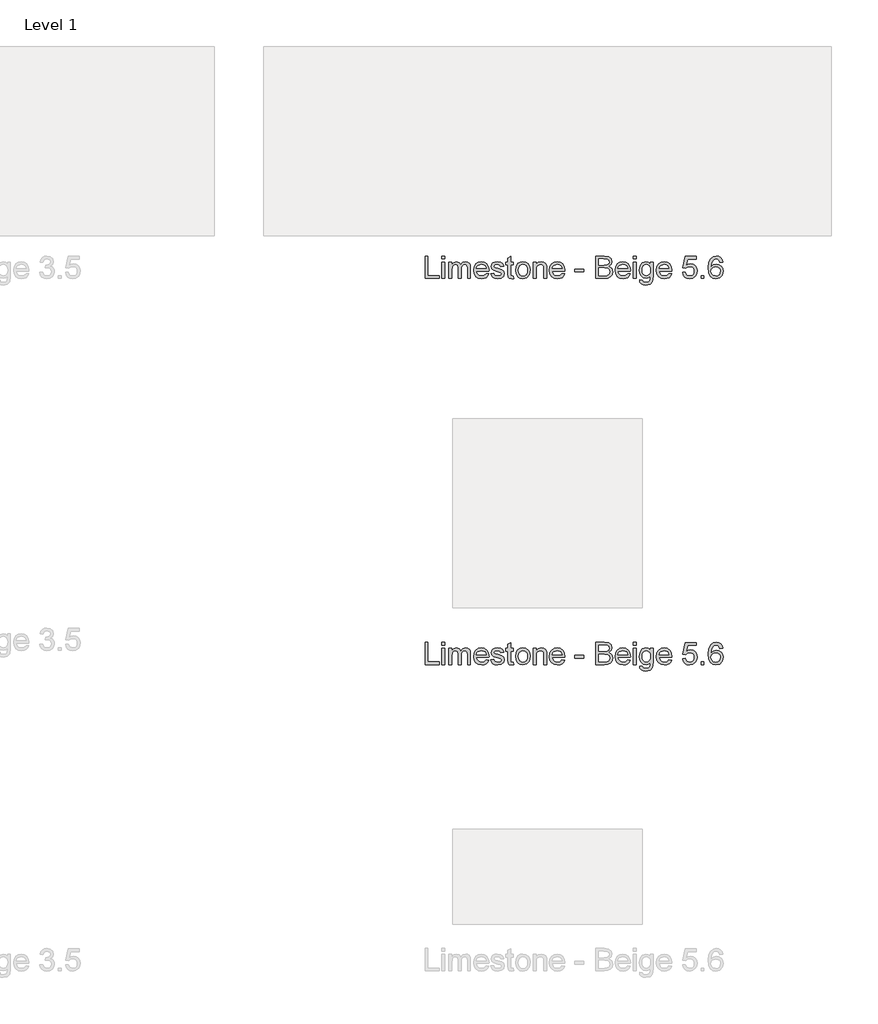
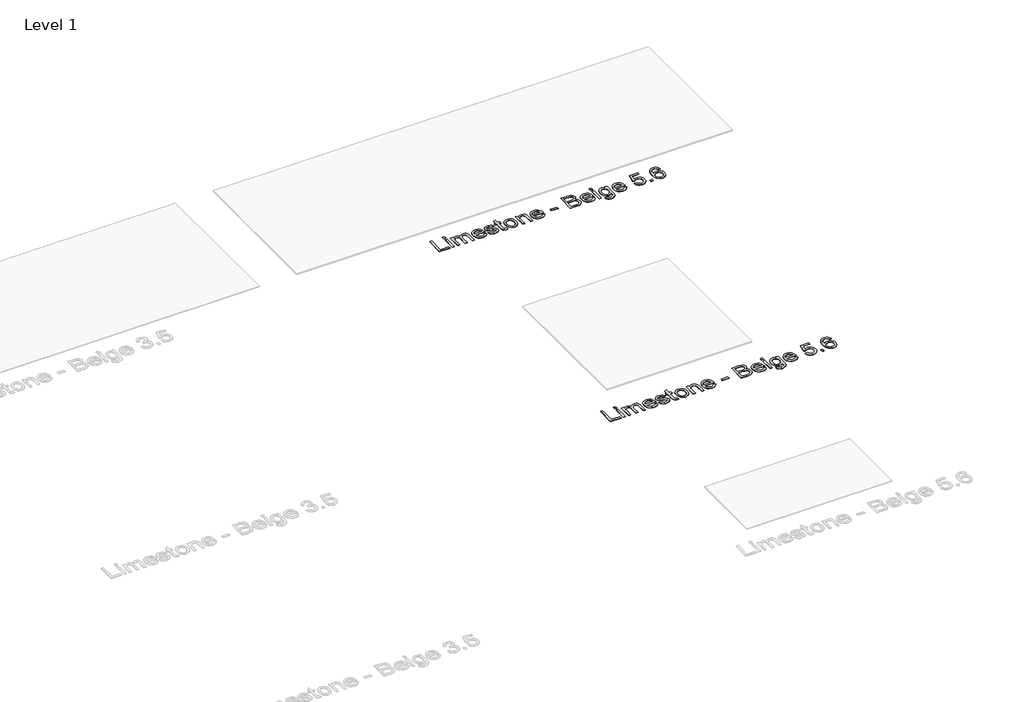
# One storey, part 74 of 80: 2 proxies.
"""IFC4 building model written with IfcOpenShell, lengths in millimetres."""

from ifc_helpers import new_model, si_unit, origin, origin_with_axes, place, context, project, spatial, polyline, outline, extrude, element, save

model = new_model("IFC4")

# Units and contexts
model_context = context("Model", 3, world=origin())
ifc_project = project(units=[si_unit("LENGTHUNIT", "METRE", prefix="MILLI")], contexts=[model_context])

# Site, building, storey
site = spatial("IfcSite", under=ifc_project)
building = spatial("IfcBuilding", under=site)
storey = spatial("IfcBuildingStorey", under=building, Name="Level 1", Elevation=0.0)

# Proxies
placement = place(None, origin())
element("IfcBuildingElementProxy", 1, Name="24\" Arial", ObjectType="24\" Arial", at=placement, inside=storey, context=model_context, shape_type="SweptSolid", body=[
    extrude(outline(polyline([(15947.3854306, 10765.2173189), (15947.3854306, 10883.3711651), (15962.1546613, 10883.3711651), (15962.1546613, 10779.9865497), (16021.2315844, 10779.9865497), (16021.2315844, 10765.2173189), (15947.3854306, 10765.2173189)])), origin_with_axes(), (0.0, 0.0, 1.0), 2.0),
    extrude(outline(polyline([(16036.0008152, 10868.6019343), (16036.0008152, 10883.3711651), (16050.7700459, 10883.3711651), (16050.7700459, 10868.6019343), (16036.0008152, 10868.6019343)])), origin_with_axes(), (0.0, 0.0, 1.0), 2.0),
    extrude(outline(polyline([(16036.0008152, 10765.2173189), (16036.0008152, 10851.9865497), (16050.7700459, 10851.9865497), (16050.7700459, 10765.2173189), (16036.0008152, 10765.2173189)])), origin_with_axes(), (0.0, 0.0, 1.0), 2.0),
    extrude(outline(polyline([(16072.9238921, 10765.2173189), (16072.9238921, 10851.9865497), (16087.6931229, 10851.9865497), (16087.6931229, 10837.7077035), (16097.846969, 10849.4048189), (16112.2988921, 10853.8327035), (16127.096969, 10849.3182805), (16135.2315844, 10836.669242), (16146.7556229, 10849.5418381), (16161.3085075, 10853.8327035), (16172.4106709, 10852.0478478), (16180.6210075, 10846.6932805), (16185.6943248, 10837.6247708), (16187.3854306, 10824.6980881), (16187.3854306, 10765.2173189), (16172.6161998, 10765.2173189), (16172.6161998, 10818.3519343), (16171.2460075, 10830.6836651), (16166.284469, 10836.7557805), (16157.846969, 10839.0634728), (16149.8457671, 10837.5851074), (16143.3229306, 10833.1500112), (16138.9851902, 10825.4552997), (16137.5392767, 10814.1980881), (16137.5392767, 10765.2173189), (16122.7700459, 10765.2173189), (16122.7700459, 10819.9961651), (16119.3517767, 10834.3038574), (16108.1450459, 10839.0634728), (16097.2123536, 10835.8903958), (16089.9431229, 10826.6019343), (16087.6931229, 10808.9769343), (16087.6931229, 10765.2173189), (16072.9238921, 10765.2173189)])), origin_with_axes(), (0.0, 0.0, 1.0), 2.0),
    extrude(outline(polyline([(16270.2892767, 10791.0634728), (16284.7700459, 10789.2173189), (16279.5524979, 10778.3062612), (16271.2267767, 10770.1500112), (16259.9803825, 10765.0658766), (16246.0008152, 10763.3711651), (16228.6714883, 10766.2954439), (16215.3373536, 10775.0682805), (16206.8349498, 10789.1199631), (16204.0008152, 10807.8807805), (16206.8637959, 10827.2726074), (16215.4527383, 10841.7750112), (16228.6065844, 10850.8182805), (16245.1642767, 10853.8327035), (16261.206344, 10850.825492), (16274.0248536, 10841.8038574), (16282.4299017, 10827.3302997), (16285.2315844, 10807.9673189), (16285.1450459, 10803.9865497), (16218.7700459, 10803.9865497), (16221.3265363, 10792.9312612), (16227.2652383, 10784.8038574), (16235.8361517, 10779.8062612), (16246.2892767, 10778.1403958), (16260.7700459, 10781.2269343), (16270.2892767, 10791.0634728)]), holes=[polyline([(16218.7700459, 10818.7557805), (16270.4623536, 10818.7557805), (16264.5488921, 10832.1403958), (16255.9383152, 10837.3327035), (16245.1065844, 10839.0634728), (16226.9190844, 10833.5394343), (16221.1967286, 10827.0815016), (16218.7700459, 10818.7557805)])]), origin_with_axes(), (0.0, 0.0, 1.0), 2.0),
    extrude(outline(polyline([(16294.4623536, 10791.0634728), (16309.2315844, 10792.9096266), (16316.0681229, 10781.9480881), (16331.7315844, 10778.1403958), (16346.7892767, 10781.6307805), (16351.6931229, 10789.8230881), (16346.7604306, 10796.4577035), (16331.5585075, 10800.669242), (16309.3181229, 10807.8952035), (16299.6113921, 10816.3327035), (16296.3085075, 10828.2461651), (16298.9623536, 10839.2509728), (16306.2027383, 10847.6596266), (16315.5921613, 10852.0298189), (16328.2988921, 10853.8327035), (16346.2700459, 10850.9336651), (16357.6931229, 10843.0875112), (16362.7700459, 10829.8327035), (16348.0008152, 10827.9865497), (16342.4479306, 10836.1355881), (16329.4527383, 10839.0634728), (16315.3181229, 10836.2653958), (16311.0777383, 10829.7461651), (16312.8373536, 10825.4480881), (16318.346969, 10822.1884728), (16331.0681229, 10819.044242), (16352.7460075, 10812.0923189), (16362.8133152, 10804.2173189), (16366.4623536, 10791.3807805), (16362.1786998, 10777.2461651), (16349.8181229, 10766.9913574), (16331.5296613, 10763.3711651), (16316.6378344, 10765.1163574), (16305.7700459, 10770.3519343), (16298.5152383, 10779.0202035), (16294.4623536, 10791.0634728)])), origin_with_axes(), (0.0, 0.0, 1.0), 2.0),
    extrude(outline(polyline([(16414.4623536, 10777.5346266), (16416.3085075, 10764.7846266), (16405.2604306, 10763.3711651), (16392.8854306, 10765.8230881), (16386.7123536, 10772.2557805), (16384.9238921, 10789.0153958), (16384.9238921, 10837.2173189), (16373.846969, 10837.2173189), (16373.846969, 10851.9865497), (16384.9238921, 10851.9865497), (16384.9238921, 10873.0730881), (16399.6931229, 10881.7557805), (16399.6931229, 10851.9865497), (16414.4623536, 10851.9865497), (16414.4623536, 10837.2173189), (16399.6931229, 10837.2173189), (16399.6931229, 10789.4480881), (16400.471969, 10781.8327035), (16402.9960075, 10779.1355881), (16408.0296613, 10778.1403958), (16414.4623536, 10777.5346266)])), origin_with_axes(), (0.0, 0.0, 1.0), 2.0),
    extrude(outline(polyline([(16425.5392767, 10808.6019343), (16428.7339883, 10829.5226074), (16438.3181229, 10844.2269343), (16450.159469, 10851.4312612), (16464.3373536, 10853.8327035), (16479.8529786, 10850.9084247), (16492.2460075, 10842.1355881), (16500.3698056, 10828.2065016), (16503.0777383, 10809.8134728), (16498.2892767, 10783.5346266), (16484.3421613, 10768.6644343), (16464.3373536, 10763.3711651), (16448.6342286, 10766.2846266), (16436.2556229, 10775.0250112), (16428.2183633, 10789.2461651), (16425.5392767, 10808.6019343)]), holes=[polyline([(16440.3085075, 10808.6307805), (16442.0176421, 10795.2641939), (16447.1450459, 10785.7413574), (16454.8613921, 10780.0406362), (16464.3373536, 10778.1403958), (16473.7700459, 10780.0514535), (16481.471969, 10785.7846266), (16486.5993729, 10795.4336651), (16488.3085075, 10809.0923189), (16486.5885556, 10822.0694824), (16481.4286998, 10831.4625112), (16473.7159594, 10837.1632324), (16464.3373536, 10839.0634728), (16454.8613921, 10837.1704439), (16447.1450459, 10831.4913574), (16442.0176421, 10821.9901555), (16440.3085075, 10808.6307805)])]), origin_with_axes(), (0.0, 0.0, 1.0), 2.0),
    extrude(outline(polyline([(16519.6931229, 10765.2173189), (16519.6931229, 10851.9865497), (16534.4623536, 10851.9865497), (16534.4623536, 10839.8711651), (16545.7556229, 10850.3423189), (16561.1738921, 10853.8327035), (16575.1210075, 10851.0202035), (16584.6402383, 10843.6355881), (16589.0681229, 10832.7750112), (16589.846969, 10818.4961651), (16589.846969, 10765.2173189), (16575.0777383, 10765.2173189), (16575.0777383, 10816.5057805), (16573.3758152, 10829.5730881), (16567.3613921, 10836.481742), (16557.221969, 10839.0634728), (16541.1979306, 10833.2653958), (16536.1462479, 10824.8639535), (16534.4623536, 10811.2557805), (16534.4623536, 10765.2173189), (16519.6931229, 10765.2173189)])), origin_with_axes(), (0.0, 0.0, 1.0), 2.0),
    extrude(outline(polyline([(16670.9046613, 10791.0634728), (16685.3854306, 10789.2173189), (16680.1678825, 10778.3062612), (16671.8421613, 10770.1500112), (16660.5957671, 10765.0658766), (16646.6161998, 10763.3711651), (16629.2868729, 10766.2954439), (16615.9527383, 10775.0682805), (16607.4503344, 10789.1199631), (16604.6161998, 10807.8807805), (16607.4791806, 10827.2726074), (16616.0681229, 10841.7750112), (16629.221969, 10850.8182805), (16645.7796613, 10853.8327035), (16661.8217286, 10850.825492), (16674.6402383, 10841.8038574), (16683.0452863, 10827.3302997), (16685.846969, 10807.9673189), (16685.7604306, 10803.9865497), (16619.3854306, 10803.9865497), (16621.9419209, 10792.9312612), (16627.8806229, 10784.8038574), (16636.4515363, 10779.8062612), (16646.9046613, 10778.1403958), (16661.3854306, 10781.2269343), (16670.9046613, 10791.0634728)]), holes=[polyline([(16619.3854306, 10818.7557805), (16671.0777383, 10818.7557805), (16665.1642767, 10832.1403958), (16656.5536998, 10837.3327035), (16645.721969, 10839.0634728), (16627.534469, 10833.5394343), (16621.8121133, 10827.0815016), (16619.3854306, 10818.7557805)])]), origin_with_axes(), (0.0, 0.0, 1.0), 2.0),
    extrude(outline(polyline([(16739.3854306, 10800.294242), (16739.3854306, 10815.0634728), (16785.5392767, 10815.0634728), (16785.5392767, 10800.294242), (16739.3854306, 10800.294242)])), origin_with_axes(), (0.0, 0.0, 1.0), 2.0),
    extrude(outline(polyline([(16850.1546613, 10765.2173189), (16850.1546613, 10883.3711651), (16895.2411998, 10883.3711651), (16917.3229306, 10879.8952035), (16930.3613921, 10869.2077035), (16935.0777383, 10854.0923189), (16931.1113921, 10840.2894343), (16919.1258152, 10829.8327035), (16933.6786998, 10818.8134728), (16938.7700459, 10800.4384728), (16935.2940844, 10784.5586651), (16926.6835075, 10773.2509728), (16913.8325459, 10767.2509728), (16894.8950459, 10765.2173189), (16850.1546613, 10765.2173189)]), holes=[polyline([(16864.9238921, 10779.9865497), (16895.2123536, 10779.9865497), (16906.1738921, 10780.5634728), (16915.4479306, 10783.7798189), (16921.5921613, 10790.3423189), (16924.0008152, 10800.294242), (16921.1738921, 10811.7750112), (16912.0152383, 10818.6259728), (16893.7700459, 10820.6019343), (16864.9238921, 10820.6019343), (16864.9238921, 10779.9865497)]), polyline([(16864.9238921, 10835.3711651), (16891.8950459, 10835.3711651), (16907.6450459, 10836.6403958), (16917.1210075, 10842.106742), (16920.3085075, 10851.7269343), (16917.3373536, 10861.3615497), (16908.8277383, 10867.0586651), (16889.846969, 10868.6019343), (16864.9238921, 10868.6019343), (16864.9238921, 10835.3711651)])]), origin_with_axes(), (0.0, 0.0, 1.0), 2.0),
    extrude(outline(polyline([(17017.9815844, 10791.0634728), (17032.4623536, 10789.2173189), (17027.2448056, 10778.3062612), (17018.9190844, 10770.1500112), (17007.6726902, 10765.0658766), (16993.6931229, 10763.3711651), (16976.3637959, 10766.2954439), (16963.0296613, 10775.0682805), (16954.5272575, 10789.1199631), (16951.6931229, 10807.8807805), (16954.5561036, 10827.2726074), (16963.1450459, 10841.7750112), (16976.2988921, 10850.8182805), (16992.8565844, 10853.8327035), (17008.8986517, 10850.825492), (17021.7171613, 10841.8038574), (17030.1222094, 10827.3302997), (17032.9238921, 10807.9673189), (17032.8373536, 10803.9865497), (16966.4623536, 10803.9865497), (16969.018844, 10792.9312612), (16974.9575459, 10784.8038574), (16983.5284594, 10779.8062612), (16993.9815844, 10778.1403958), (17008.4623536, 10781.2269343), (17017.9815844, 10791.0634728)]), holes=[polyline([(16966.4623536, 10818.7557805), (17018.1546613, 10818.7557805), (17012.2411998, 10832.1403958), (17003.6306229, 10837.3327035), (16992.7988921, 10839.0634728), (16974.6113921, 10833.5394343), (16968.8890363, 10827.0815016), (16966.4623536, 10818.7557805)])]), origin_with_axes(), (0.0, 0.0, 1.0), 2.0),
    extrude(outline(polyline([(17047.6931229, 10765.2173189), (17047.6931229, 10851.9865497), (17062.4623536, 10851.9865497), (17062.4623536, 10765.2173189), (17047.6931229, 10765.2173189)])), origin_with_axes(), (0.0, 0.0, 1.0), 2.0),
    extrude(outline(polyline([(17047.6931229, 10868.6019343), (17047.6931229, 10883.3711651), (17062.4623536, 10883.3711651), (17062.4623536, 10868.6019343), (17047.6931229, 10868.6019343)])), origin_with_axes(), (0.0, 0.0, 1.0), 2.0),
    extrude(outline(polyline([(17080.9238921, 10757.8327035), (17095.6931229, 10755.9865497), (17100.4815844, 10748.1980881), (17114.8181229, 10744.9096266), (17129.9335075, 10748.6307805), (17137.1450459, 10759.0730881), (17138.1546613, 10776.294242), (17127.7556229, 10767.9865497), (17115.0777383, 10765.2173189), (17099.8505748, 10768.4408766), (17088.4960075, 10778.1115497), (17081.4323056, 10792.2894343), (17079.0777383, 10809.0346266), (17083.3036998, 10831.9240497), (17095.534469, 10848.1211651), (17114.3565844, 10853.8327035), (17127.5320652, 10850.6019343), (17138.1546613, 10840.9096266), (17138.1546613, 10851.9865497), (17152.9238921, 10851.9865497), (17152.9238921, 10777.0730881), (17148.8854306, 10748.3855881), (17136.0921613, 10735.044242), (17114.5296613, 10730.1403958), (17100.7880748, 10731.8675593), (17089.9671613, 10737.0490497), (17083.0260556, 10745.6992901), (17080.9238921, 10757.8327035)]), holes=[polyline([(17093.846969, 10810.044242), (17095.4226902, 10796.497367), (17100.1498536, 10787.1836651), (17107.2568248, 10781.7858285), (17115.971969, 10779.9865497), (17124.6222094, 10781.7750112), (17131.7652383, 10787.1403958), (17136.5573056, 10796.3351074), (17138.1546613, 10809.6115497), (17136.5104306, 10822.4156362), (17131.5777383, 10831.6355881), (17124.3301421, 10837.2065016), (17115.7411998, 10839.0634728), (17107.3073056, 10837.2353478), (17100.2363921, 10831.7509728), (17095.4443248, 10822.6680401), (17093.846969, 10810.044242)])]), origin_with_axes(), (0.0, 0.0, 1.0), 2.0),
    extrude(outline(polyline([(17235.8277383, 10791.0634728), (17250.3085075, 10789.2173189), (17245.0909594, 10778.3062612), (17236.7652383, 10770.1500112), (17225.518844, 10765.0658766), (17211.5392767, 10763.3711651), (17194.2099498, 10766.2954439), (17180.8758152, 10775.0682805), (17172.3734113, 10789.1199631), (17169.5392767, 10807.8807805), (17172.4022575, 10827.2726074), (17180.9911998, 10841.7750112), (17194.1450459, 10850.8182805), (17210.7027383, 10853.8327035), (17226.7448056, 10850.825492), (17239.5633152, 10841.8038574), (17247.9683633, 10827.3302997), (17250.7700459, 10807.9673189), (17250.6835075, 10803.9865497), (17184.3085075, 10803.9865497), (17186.8649979, 10792.9312612), (17192.8036998, 10784.8038574), (17201.3746133, 10779.8062612), (17211.8277383, 10778.1403958), (17226.3085075, 10781.2269343), (17235.8277383, 10791.0634728)]), holes=[polyline([(17184.3085075, 10818.7557805), (17236.0008152, 10818.7557805), (17230.0873536, 10832.1403958), (17221.4767767, 10837.3327035), (17210.6450459, 10839.0634728), (17192.4575459, 10833.5394343), (17186.7351902, 10827.0815016), (17184.3085075, 10818.7557805)])]), origin_with_axes(), (0.0, 0.0, 1.0), 2.0),
    extrude(outline(polyline([(17308.0008152, 10796.6019343), (17322.7700459, 10798.4480881), (17330.2123536, 10783.231742), (17345.6450459, 10778.1403958), (17356.2315844, 10779.9108285), (17364.1642767, 10785.2221266), (17369.1186036, 10793.4613093), (17370.7700459, 10804.0153958), (17369.2231709, 10813.9528958), (17364.5825459, 10821.5538574), (17356.8121133, 10826.3783766), (17345.8758152, 10827.9865497), (17332.909469, 10825.419242), (17324.6161998, 10818.7557805), (17309.846969, 10820.6019343), (17322.7700459, 10881.5250112), (17380.0008152, 10881.5250112), (17380.0008152, 10866.7557805), (17334.7123536, 10866.7557805), (17328.3950459, 10834.2173189), (17338.9455267, 10840.6211651), (17350.0008152, 10842.7557805), (17363.800094, 10840.1091458), (17375.2556229, 10832.169242), (17382.9683633, 10820.0682805), (17385.5392767, 10804.9384728), (17383.2243729, 10790.169242), (17376.2796613, 10777.5346266), (17362.9815844, 10766.9120305), (17345.5873536, 10763.3711651), (17331.081344, 10765.6464055), (17319.5248536, 10772.4721266), (17311.6029786, 10783.0550593), (17308.0008152, 10796.6019343)])), origin_with_axes(), (0.0, 0.0, 1.0), 2.0),
    extrude(outline(polyline([(17405.846969, 10765.2173189), (17405.846969, 10779.9865497), (17420.6161998, 10779.9865497), (17420.6161998, 10765.2173189), (17405.846969, 10765.2173189)])), origin_with_axes(), (0.0, 0.0, 1.0), 2.0),
    extrude(outline(polyline([(17520.3085075, 10851.9865497), (17505.5392767, 10850.1403958), (17499.9431229, 10862.4577035), (17493.2436036, 10867.0658766), (17485.1450459, 10868.6019343), (17471.8181229, 10865.0250112), (17461.7363921, 10851.5971266), (17457.5392767, 10825.2750112), (17470.5633152, 10837.0586651), (17486.7027383, 10840.9096266), (17500.346969, 10838.2774151), (17511.7988921, 10830.3807805), (17519.565719, 10818.3158766), (17522.1546613, 10803.1788574), (17517.2796613, 10782.7990497), (17503.8661998, 10768.3759728), (17484.5104306, 10763.3711651), (17467.7544209, 10766.6884728), (17454.409469, 10776.6403958), (17445.6799017, 10794.2077035), (17442.7700459, 10820.3711651), (17446.0008152, 10849.7870305), (17455.6931229, 10869.9000112), (17468.9262959, 10880.0033766), (17486.0681229, 10883.3711651), (17499.0272575, 10881.2870305), (17509.4046613, 10875.0346266), (17516.6738921, 10865.1043381), (17520.3085075, 10851.9865497)]), holes=[polyline([(17457.5392767, 10803.4096266), (17460.9575459, 10790.6163574), (17470.0440844, 10781.3278958), (17483.3565844, 10778.1403958), (17493.1029786, 10779.7918381), (17500.7652383, 10784.7461651), (17505.7303825, 10792.5346266), (17507.3854306, 10802.6884728), (17505.7520171, 10812.434867), (17500.8517767, 10819.8663574), (17493.0597094, 10824.5718862), (17482.7508152, 10826.1403958), (17473.018844, 10824.5718862), (17464.8806229, 10819.8663574), (17459.3746133, 10812.6151555), (17457.5392767, 10803.4096266)])]), origin_with_axes(), (0.0, 0.0, 1.0), 2.0),
])
element("IfcBuildingElementProxy", 2, Name="24\" Arial", ObjectType="24\" Arial", at=placement, inside=storey, context=model_context, shape_type="SweptSolid", body=[
    extrude(outline(polyline([(15947.3854306, 8724.5734229), (15947.3854306, 8842.727269), (15962.1546613, 8842.727269), (15962.1546613, 8739.3426536), (16021.2315844, 8739.3426536), (16021.2315844, 8724.5734229), (15947.3854306, 8724.5734229)])), origin_with_axes(), (0.0, 0.0, 1.0), 2.0),
    extrude(outline(polyline([(16036.0008152, 8827.9580383), (16036.0008152, 8842.727269), (16050.7700459, 8842.727269), (16050.7700459, 8827.9580383), (16036.0008152, 8827.9580383)])), origin_with_axes(), (0.0, 0.0, 1.0), 2.0),
    extrude(outline(polyline([(16036.0008152, 8724.5734229), (16036.0008152, 8811.3426536), (16050.7700459, 8811.3426536), (16050.7700459, 8724.5734229), (16036.0008152, 8724.5734229)])), origin_with_axes(), (0.0, 0.0, 1.0), 2.0),
    extrude(outline(polyline([(16072.9238921, 8724.5734229), (16072.9238921, 8811.3426536), (16087.6931229, 8811.3426536), (16087.6931229, 8797.0638075), (16097.846969, 8808.7609229), (16112.2988921, 8813.1888075), (16127.096969, 8808.6743844), (16135.2315844, 8796.025346), (16146.7556229, 8808.8979421), (16161.3085075, 8813.1888075), (16172.4106709, 8811.4039517), (16180.6210075, 8806.0493844), (16185.6943248, 8796.9808748), (16187.3854306, 8784.0541921), (16187.3854306, 8724.5734229), (16172.6161998, 8724.5734229), (16172.6161998, 8777.7080383), (16171.2460075, 8790.039769), (16166.284469, 8796.1118844), (16157.846969, 8798.4195767), (16149.8457671, 8796.9412113), (16143.3229306, 8792.5061152), (16138.9851902, 8784.8114036), (16137.5392767, 8773.5541921), (16137.5392767, 8724.5734229), (16122.7700459, 8724.5734229), (16122.7700459, 8779.352269), (16119.3517767, 8793.6599613), (16108.1450459, 8798.4195767), (16097.2123536, 8795.2464998), (16089.9431229, 8785.9580383), (16087.6931229, 8768.3330383), (16087.6931229, 8724.5734229), (16072.9238921, 8724.5734229)])), origin_with_axes(), (0.0, 0.0, 1.0), 2.0),
    extrude(outline(polyline([(16270.2892767, 8750.4195767), (16284.7700459, 8748.5734229), (16279.5524979, 8737.6623652), (16271.2267767, 8729.5061152), (16259.9803825, 8724.4219806), (16246.0008152, 8722.727269), (16228.6714883, 8725.6515479), (16215.3373536, 8734.4243844), (16206.8349498, 8748.4760671), (16204.0008152, 8767.2368844), (16206.8637959, 8786.6287113), (16215.4527383, 8801.1311152), (16228.6065844, 8810.1743844), (16245.1642767, 8813.1888075), (16261.206344, 8810.181596), (16274.0248536, 8801.1599613), (16282.4299017, 8786.6864036), (16285.2315844, 8767.3234229), (16285.1450459, 8763.3426536), (16218.7700459, 8763.3426536), (16221.3265363, 8752.2873652), (16227.2652383, 8744.1599613), (16235.8361517, 8739.1623652), (16246.2892767, 8737.4964998), (16260.7700459, 8740.5830383), (16270.2892767, 8750.4195767)]), holes=[polyline([(16218.7700459, 8778.1118844), (16270.4623536, 8778.1118844), (16264.5488921, 8791.4964998), (16255.9383152, 8796.6888075), (16245.1065844, 8798.4195767), (16226.9190844, 8792.8955383), (16221.1967286, 8786.4376056), (16218.7700459, 8778.1118844)])]), origin_with_axes(), (0.0, 0.0, 1.0), 2.0),
    extrude(outline(polyline([(16294.4623536, 8750.4195767), (16309.2315844, 8752.2657306), (16316.0681229, 8741.3041921), (16331.7315844, 8737.4964998), (16346.7892767, 8740.9868844), (16351.6931229, 8749.1791921), (16346.7604306, 8755.8138075), (16331.5585075, 8760.025346), (16309.3181229, 8767.2513075), (16299.6113921, 8775.6888075), (16296.3085075, 8787.602269), (16298.9623536, 8798.6070767), (16306.2027383, 8807.0157306), (16315.5921613, 8811.3859229), (16328.2988921, 8813.1888075), (16346.2700459, 8810.289769), (16357.6931229, 8802.4436152), (16362.7700459, 8789.1888075), (16348.0008152, 8787.3426536), (16342.4479306, 8795.4916921), (16329.4527383, 8798.4195767), (16315.3181229, 8795.6214998), (16311.0777383, 8789.102269), (16312.8373536, 8784.8041921), (16318.346969, 8781.5445767), (16331.0681229, 8778.400346), (16352.7460075, 8771.4484229), (16362.8133152, 8763.5734229), (16366.4623536, 8750.7368844), (16362.1786998, 8736.602269), (16349.8181229, 8726.3474613), (16331.5296613, 8722.727269), (16316.6378344, 8724.4724613), (16305.7700459, 8729.7080383), (16298.5152383, 8738.3763075), (16294.4623536, 8750.4195767)])), origin_with_axes(), (0.0, 0.0, 1.0), 2.0),
    extrude(outline(polyline([(16414.4623536, 8736.8907306), (16416.3085075, 8724.1407306), (16405.2604306, 8722.727269), (16392.8854306, 8725.1791921), (16386.7123536, 8731.6118844), (16384.9238921, 8748.3714998), (16384.9238921, 8796.5734229), (16373.846969, 8796.5734229), (16373.846969, 8811.3426536), (16384.9238921, 8811.3426536), (16384.9238921, 8832.4291921), (16399.6931229, 8841.1118844), (16399.6931229, 8811.3426536), (16414.4623536, 8811.3426536), (16414.4623536, 8796.5734229), (16399.6931229, 8796.5734229), (16399.6931229, 8748.8041921), (16400.471969, 8741.1888075), (16402.9960075, 8738.4916921), (16408.0296613, 8737.4964998), (16414.4623536, 8736.8907306)])), origin_with_axes(), (0.0, 0.0, 1.0), 2.0),
    extrude(outline(polyline([(16425.5392767, 8767.9580383), (16428.7339883, 8788.8787113), (16438.3181229, 8803.5830383), (16450.159469, 8810.7873652), (16464.3373536, 8813.1888075), (16479.8529786, 8810.2645286), (16492.2460075, 8801.4916921), (16500.3698056, 8787.5626056), (16503.0777383, 8769.1695767), (16498.2892767, 8742.8907306), (16484.3421613, 8728.0205383), (16464.3373536, 8722.727269), (16448.6342286, 8725.6407306), (16436.2556229, 8734.3811152), (16428.2183633, 8748.602269), (16425.5392767, 8767.9580383)]), holes=[polyline([(16440.3085075, 8767.9868844), (16442.0176421, 8754.6202979), (16447.1450459, 8745.0974613), (16454.8613921, 8739.3967402), (16464.3373536, 8737.4964998), (16473.7700459, 8739.4075575), (16481.471969, 8745.1407306), (16486.5993729, 8754.789769), (16488.3085075, 8768.4484229), (16486.5885556, 8781.4255863), (16481.4286998, 8790.8186152), (16473.7159594, 8796.5193363), (16464.3373536, 8798.4195767), (16454.8613921, 8796.5265479), (16447.1450459, 8790.8474613), (16442.0176421, 8781.3462594), (16440.3085075, 8767.9868844)])]), origin_with_axes(), (0.0, 0.0, 1.0), 2.0),
    extrude(outline(polyline([(16519.6931229, 8724.5734229), (16519.6931229, 8811.3426536), (16534.4623536, 8811.3426536), (16534.4623536, 8799.227269), (16545.7556229, 8809.6984229), (16561.1738921, 8813.1888075), (16575.1210075, 8810.3763075), (16584.6402383, 8802.9916921), (16589.0681229, 8792.1311152), (16589.846969, 8777.852269), (16589.846969, 8724.5734229), (16575.0777383, 8724.5734229), (16575.0777383, 8775.8618844), (16573.3758152, 8788.9291921), (16567.3613921, 8795.837846), (16557.221969, 8798.4195767), (16541.1979306, 8792.6214998), (16536.1462479, 8784.2200575), (16534.4623536, 8770.6118844), (16534.4623536, 8724.5734229), (16519.6931229, 8724.5734229)])), origin_with_axes(), (0.0, 0.0, 1.0), 2.0),
    extrude(outline(polyline([(16670.9046613, 8750.4195767), (16685.3854306, 8748.5734229), (16680.1678825, 8737.6623652), (16671.8421613, 8729.5061152), (16660.5957671, 8724.4219806), (16646.6161998, 8722.727269), (16629.2868729, 8725.6515479), (16615.9527383, 8734.4243844), (16607.4503344, 8748.4760671), (16604.6161998, 8767.2368844), (16607.4791806, 8786.6287113), (16616.0681229, 8801.1311152), (16629.221969, 8810.1743844), (16645.7796613, 8813.1888075), (16661.8217286, 8810.181596), (16674.6402383, 8801.1599613), (16683.0452863, 8786.6864036), (16685.846969, 8767.3234229), (16685.7604306, 8763.3426536), (16619.3854306, 8763.3426536), (16621.9419209, 8752.2873652), (16627.8806229, 8744.1599613), (16636.4515363, 8739.1623652), (16646.9046613, 8737.4964998), (16661.3854306, 8740.5830383), (16670.9046613, 8750.4195767)]), holes=[polyline([(16619.3854306, 8778.1118844), (16671.0777383, 8778.1118844), (16665.1642767, 8791.4964998), (16656.5536998, 8796.6888075), (16645.721969, 8798.4195767), (16627.534469, 8792.8955383), (16621.8121133, 8786.4376056), (16619.3854306, 8778.1118844)])]), origin_with_axes(), (0.0, 0.0, 1.0), 2.0),
    extrude(outline(polyline([(16739.3854306, 8759.650346), (16739.3854306, 8774.4195767), (16785.5392767, 8774.4195767), (16785.5392767, 8759.650346), (16739.3854306, 8759.650346)])), origin_with_axes(), (0.0, 0.0, 1.0), 2.0),
    extrude(outline(polyline([(16850.1546613, 8724.5734229), (16850.1546613, 8842.727269), (16895.2411998, 8842.727269), (16917.3229306, 8839.2513075), (16930.3613921, 8828.5638075), (16935.0777383, 8813.4484229), (16931.1113921, 8799.6455383), (16919.1258152, 8789.1888075), (16933.6786998, 8778.1695767), (16938.7700459, 8759.7945767), (16935.2940844, 8743.914769), (16926.6835075, 8732.6070767), (16913.8325459, 8726.6070767), (16894.8950459, 8724.5734229), (16850.1546613, 8724.5734229)]), holes=[polyline([(16864.9238921, 8739.3426536), (16895.2123536, 8739.3426536), (16906.1738921, 8739.9195767), (16915.4479306, 8743.1359229), (16921.5921613, 8749.6984229), (16924.0008152, 8759.650346), (16921.1738921, 8771.1311152), (16912.0152383, 8777.9820767), (16893.7700459, 8779.9580383), (16864.9238921, 8779.9580383), (16864.9238921, 8739.3426536)]), polyline([(16864.9238921, 8794.727269), (16891.8950459, 8794.727269), (16907.6450459, 8795.9964998), (16917.1210075, 8801.462846), (16920.3085075, 8811.0830383), (16917.3373536, 8820.7176536), (16908.8277383, 8826.414769), (16889.846969, 8827.9580383), (16864.9238921, 8827.9580383), (16864.9238921, 8794.727269)])]), origin_with_axes(), (0.0, 0.0, 1.0), 2.0),
    extrude(outline(polyline([(17017.9815844, 8750.4195767), (17032.4623536, 8748.5734229), (17027.2448056, 8737.6623652), (17018.9190844, 8729.5061152), (17007.6726902, 8724.4219806), (16993.6931229, 8722.727269), (16976.3637959, 8725.6515479), (16963.0296613, 8734.4243844), (16954.5272575, 8748.4760671), (16951.6931229, 8767.2368844), (16954.5561036, 8786.6287113), (16963.1450459, 8801.1311152), (16976.2988921, 8810.1743844), (16992.8565844, 8813.1888075), (17008.8986517, 8810.181596), (17021.7171613, 8801.1599613), (17030.1222094, 8786.6864036), (17032.9238921, 8767.3234229), (17032.8373536, 8763.3426536), (16966.4623536, 8763.3426536), (16969.018844, 8752.2873652), (16974.9575459, 8744.1599613), (16983.5284594, 8739.1623652), (16993.9815844, 8737.4964998), (17008.4623536, 8740.5830383), (17017.9815844, 8750.4195767)]), holes=[polyline([(16966.4623536, 8778.1118844), (17018.1546613, 8778.1118844), (17012.2411998, 8791.4964998), (17003.6306229, 8796.6888075), (16992.7988921, 8798.4195767), (16974.6113921, 8792.8955383), (16968.8890363, 8786.4376056), (16966.4623536, 8778.1118844)])]), origin_with_axes(), (0.0, 0.0, 1.0), 2.0),
    extrude(outline(polyline([(17047.6931229, 8724.5734229), (17047.6931229, 8811.3426536), (17062.4623536, 8811.3426536), (17062.4623536, 8724.5734229), (17047.6931229, 8724.5734229)])), origin_with_axes(), (0.0, 0.0, 1.0), 2.0),
    extrude(outline(polyline([(17047.6931229, 8827.9580383), (17047.6931229, 8842.727269), (17062.4623536, 8842.727269), (17062.4623536, 8827.9580383), (17047.6931229, 8827.9580383)])), origin_with_axes(), (0.0, 0.0, 1.0), 2.0),
    extrude(outline(polyline([(17080.9238921, 8717.1888075), (17095.6931229, 8715.3426536), (17100.4815844, 8707.5541921), (17114.8181229, 8704.2657306), (17129.9335075, 8707.9868844), (17137.1450459, 8718.4291921), (17138.1546613, 8735.650346), (17127.7556229, 8727.3426536), (17115.0777383, 8724.5734229), (17099.8505748, 8727.7969806), (17088.4960075, 8737.4676536), (17081.4323056, 8751.6455383), (17079.0777383, 8768.3907306), (17083.3036998, 8791.2801536), (17095.534469, 8807.477269), (17114.3565844, 8813.1888075), (17127.5320652, 8809.9580383), (17138.1546613, 8800.2657306), (17138.1546613, 8811.3426536), (17152.9238921, 8811.3426536), (17152.9238921, 8736.4291921), (17148.8854306, 8707.7416921), (17136.0921613, 8694.400346), (17114.5296613, 8689.4964998), (17100.7880748, 8691.2236633), (17089.9671613, 8696.4051536), (17083.0260556, 8705.055394), (17080.9238921, 8717.1888075)]), holes=[polyline([(17093.846969, 8769.400346), (17095.4226902, 8755.853471), (17100.1498536, 8746.539769), (17107.2568248, 8741.1419325), (17115.971969, 8739.3426536), (17124.6222094, 8741.1311152), (17131.7652383, 8746.4964998), (17136.5573056, 8755.6912113), (17138.1546613, 8768.9676536), (17136.5104306, 8781.7717402), (17131.5777383, 8790.9916921), (17124.3301421, 8796.5626056), (17115.7411998, 8798.4195767), (17107.3073056, 8796.5914517), (17100.2363921, 8791.1070767), (17095.4443248, 8782.024144), (17093.846969, 8769.400346)])]), origin_with_axes(), (0.0, 0.0, 1.0), 2.0),
    extrude(outline(polyline([(17235.8277383, 8750.4195767), (17250.3085075, 8748.5734229), (17245.0909594, 8737.6623652), (17236.7652383, 8729.5061152), (17225.518844, 8724.4219806), (17211.5392767, 8722.727269), (17194.2099498, 8725.6515479), (17180.8758152, 8734.4243844), (17172.3734113, 8748.4760671), (17169.5392767, 8767.2368844), (17172.4022575, 8786.6287113), (17180.9911998, 8801.1311152), (17194.1450459, 8810.1743844), (17210.7027383, 8813.1888075), (17226.7448056, 8810.181596), (17239.5633152, 8801.1599613), (17247.9683633, 8786.6864036), (17250.7700459, 8767.3234229), (17250.6835075, 8763.3426536), (17184.3085075, 8763.3426536), (17186.8649979, 8752.2873652), (17192.8036998, 8744.1599613), (17201.3746133, 8739.1623652), (17211.8277383, 8737.4964998), (17226.3085075, 8740.5830383), (17235.8277383, 8750.4195767)]), holes=[polyline([(17184.3085075, 8778.1118844), (17236.0008152, 8778.1118844), (17230.0873536, 8791.4964998), (17221.4767767, 8796.6888075), (17210.6450459, 8798.4195767), (17192.4575459, 8792.8955383), (17186.7351902, 8786.4376056), (17184.3085075, 8778.1118844)])]), origin_with_axes(), (0.0, 0.0, 1.0), 2.0),
    extrude(outline(polyline([(17308.0008152, 8755.9580383), (17322.7700459, 8757.8041921), (17330.2123536, 8742.587846), (17345.6450459, 8737.4964998), (17356.2315844, 8739.2669325), (17364.1642767, 8744.5782306), (17369.1186036, 8752.8174133), (17370.7700459, 8763.3714998), (17369.2231709, 8773.3089998), (17364.5825459, 8780.9099613), (17356.8121133, 8785.7344806), (17345.8758152, 8787.3426536), (17332.909469, 8784.775346), (17324.6161998, 8778.1118844), (17309.846969, 8779.9580383), (17322.7700459, 8840.8811152), (17380.0008152, 8840.8811152), (17380.0008152, 8826.1118844), (17334.7123536, 8826.1118844), (17328.3950459, 8793.5734229), (17338.9455267, 8799.977269), (17350.0008152, 8802.1118844), (17363.800094, 8799.4652498), (17375.2556229, 8791.525346), (17382.9683633, 8779.4243844), (17385.5392767, 8764.2945767), (17383.2243729, 8749.525346), (17376.2796613, 8736.8907306), (17362.9815844, 8726.2681344), (17345.5873536, 8722.727269), (17331.081344, 8725.0025094), (17319.5248536, 8731.8282306), (17311.6029786, 8742.4111633), (17308.0008152, 8755.9580383)])), origin_with_axes(), (0.0, 0.0, 1.0), 2.0),
    extrude(outline(polyline([(17405.846969, 8724.5734229), (17405.846969, 8739.3426536), (17420.6161998, 8739.3426536), (17420.6161998, 8724.5734229), (17405.846969, 8724.5734229)])), origin_with_axes(), (0.0, 0.0, 1.0), 2.0),
    extrude(outline(polyline([(17520.3085075, 8811.3426536), (17505.5392767, 8809.4964998), (17499.9431229, 8821.8138075), (17493.2436036, 8826.4219806), (17485.1450459, 8827.9580383), (17471.8181229, 8824.3811152), (17461.7363921, 8810.9532306), (17457.5392767, 8784.6311152), (17470.5633152, 8796.414769), (17486.7027383, 8800.2657306), (17500.346969, 8797.633519), (17511.7988921, 8789.7368844), (17519.565719, 8777.6719806), (17522.1546613, 8762.5349613), (17517.2796613, 8742.1551536), (17503.8661998, 8727.7320767), (17484.5104306, 8722.727269), (17467.7544209, 8726.0445767), (17454.409469, 8735.9964998), (17445.6799017, 8753.5638075), (17442.7700459, 8779.727269), (17446.0008152, 8809.1431344), (17455.6931229, 8829.2561152), (17468.9262959, 8839.3594806), (17486.0681229, 8842.727269), (17499.0272575, 8840.6431344), (17509.4046613, 8834.3907306), (17516.6738921, 8824.4604421), (17520.3085075, 8811.3426536)]), holes=[polyline([(17457.5392767, 8762.7657306), (17460.9575459, 8749.9724613), (17470.0440844, 8740.6839998), (17483.3565844, 8737.4964998), (17493.1029786, 8739.1479421), (17500.7652383, 8744.102269), (17505.7303825, 8751.8907306), (17507.3854306, 8762.0445767), (17505.7520171, 8771.790971), (17500.8517767, 8779.2224613), (17493.0597094, 8783.9279902), (17482.7508152, 8785.4964998), (17473.018844, 8783.9279902), (17464.8806229, 8779.2224613), (17459.3746133, 8771.9712594), (17457.5392767, 8762.7657306)])]), origin_with_axes(), (0.0, 0.0, 1.0), 2.0),
])

save(model, "model.ifc")
